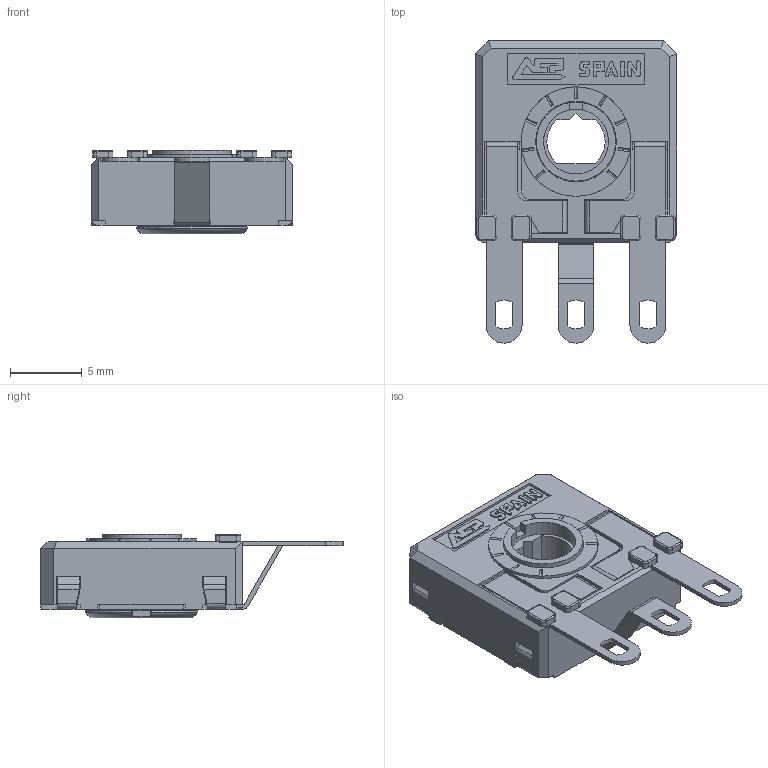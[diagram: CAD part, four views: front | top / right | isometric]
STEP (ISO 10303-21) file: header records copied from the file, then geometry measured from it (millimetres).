
FILE_DESCRIPTION(/* description */ (''),/* implementation_level */ '2;1');
FILE_NAME(/* name */ '\\SERVERACP\intercambio\Ignacio Santa Cecilia\Nueva WEB 2025\CA14 - CE14\CA14KHC0.stp',/* time_stamp */ '2025-06-06T10:46:57+02:00',/* author */ ('CEM'),/* organization */ (''),/* preprocessor_version */ 'ST-DEVELOPER v17',/* originating_system */ 'Autodesk Inventor 2018',/* authorisation */ '');
FILE_SCHEMA (('AUTOMOTIVE_DESIGN { 1 0 10303 214 3 1 1 }'));
Length unit declared in the file: millimetre
Products named in the file (1): CARCASA CA14 PGA
Bounding box: 14 x 21 x 5.8 mm (x, y, z)
Volume: 535.3 mm3; surface area: 1491.3 mm2
Topology: 1 solids, 1 shells, 660 faces, 1864 edges, 1200 vertices
Faces by surface type: plane 479, cylinder 144, torus 23, bspline 8, cone 6
Full cylindrical faces by diameter (mm): 4.5 x1, 5.5 x1, 5.6 x1, 5.752 x1, 6.8 x1, 7.6 x1
Entity records: 21583 total; most frequent: CARTESIAN_POINT 4022, ORIENTED_EDGE 3728, DIRECTION 3499, EDGE_CURVE 1864, LINE 1445, VECTOR 1445, VERTEX_POINT 1200, AXIS2_PLACEMENT_3D 1027
